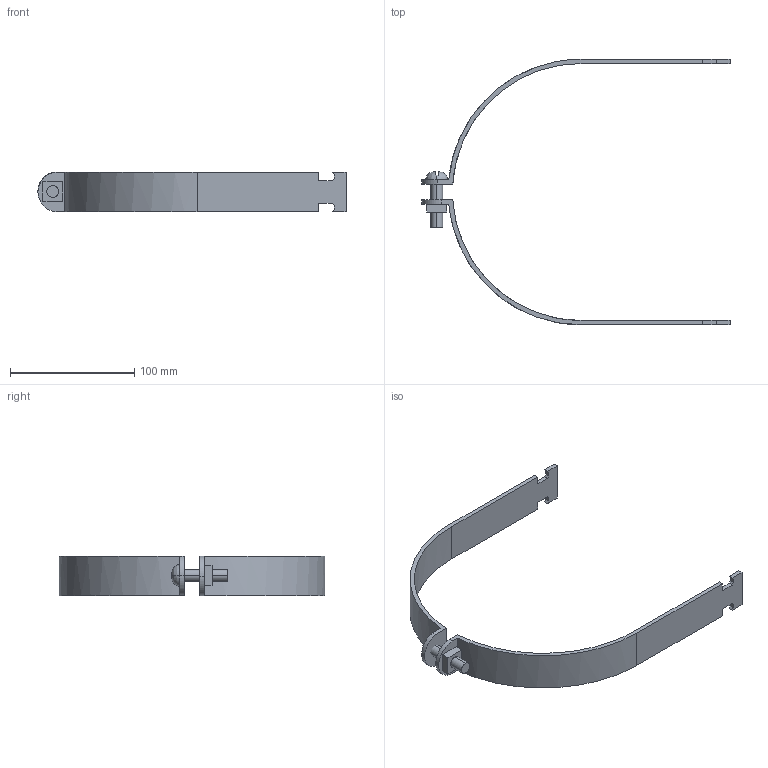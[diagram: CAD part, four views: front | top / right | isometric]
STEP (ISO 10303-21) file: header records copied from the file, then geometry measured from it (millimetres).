
FILE_DESCRIPTION(('TurboCAD Mac Pro'),'Build 980');
FILE_NAME('P2070-81.stp',' ',(''),(''),'ACIS Interop','IMSI','TurboCAD Mac Pro BY IMSI, INCORPORATED');
FILE_SCHEMA(('automotive_design'));
Length unit declared in the file: inch
Products named in the file (5): 1; 2; 3; 4; 5
Bounding box: 247.65 x 213.38 x 31.75 mm (x, y, z)
Volume: 68214.5 mm3; surface area: 44369.2 mm2
Topology: 4 solids, 4 shells, 71 faces, 186 edges, 124 vertices
Faces by surface type: plane 51, bspline 20
Entity records: 3502 total; most frequent: CARTESIAN_POINT 1067, ORIENTED_EDGE 372, DIRECTION 257, EDGE_CURVE 186, LINE 137, VECTOR 137, VERTEX_POINT 124, STYLED_ITEM 91
